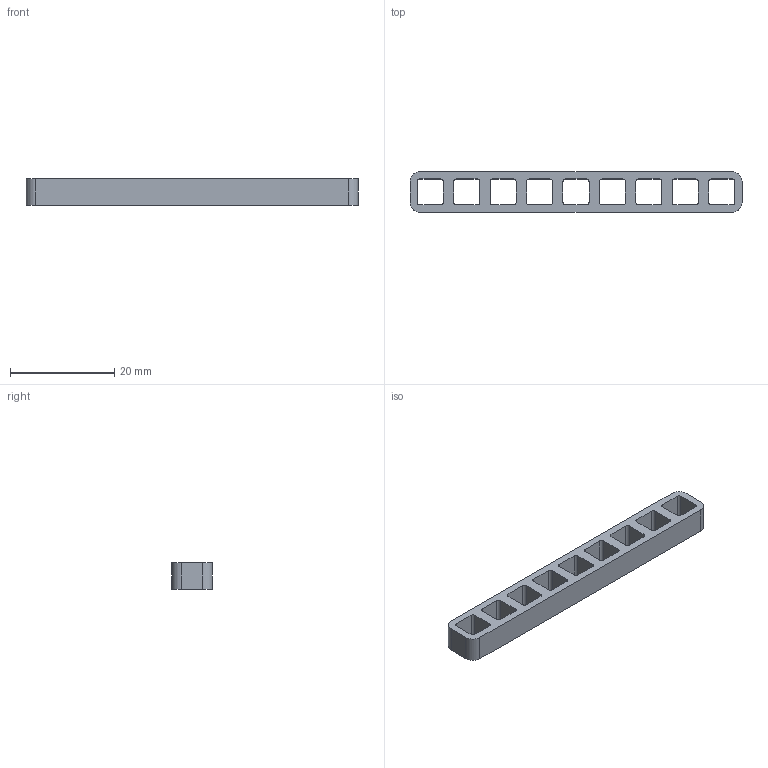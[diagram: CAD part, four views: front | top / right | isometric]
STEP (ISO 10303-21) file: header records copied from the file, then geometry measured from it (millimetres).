
FILE_DESCRIPTION(('CATIA V5 STEP Exchange','CAx-IF Rec.Pracs.--- Model Styling and Organization---1.4--- 2014-01-23'),'2;1');
FILE_NAME('D:\모델\플래그\플래그\일반\03.stp','2026-07-14T16:01:48+00:00',('none'),('none'),'CATIA Version 5-6 Release 2018','CATIA V5 STEP AP214','none');
FILE_SCHEMA(('AUTOMOTIVE_DESIGN { 1 0 10303 214 1 1 1 1 }'));
Length unit declared in the file: millimetre
Products named in the file (1): bulkhead11
Bounding box: 63.78 x 7.8 x 5 mm (x, y, z)
Volume: 1356.6 mm3; surface area: 2103.5 mm2
Topology: 1 solids, 1 shells, 82 faces, 240 edges, 160 vertices
Faces by surface type: plane 42, cylinder 40
Entity records: 2658 total; most frequent: ORIENTED_EDGE 480, CARTESIAN_POINT 467, DIRECTION 372, EDGE_CURVE 240, VECTOR 160, LINE 160, VERTEX_POINT 160, AXIS2_PLACEMENT_3D 147
